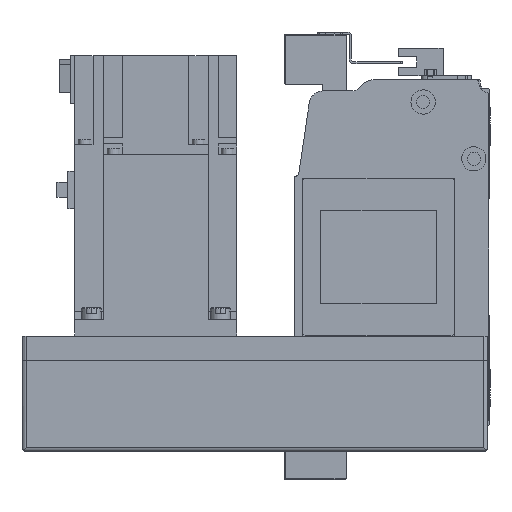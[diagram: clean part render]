
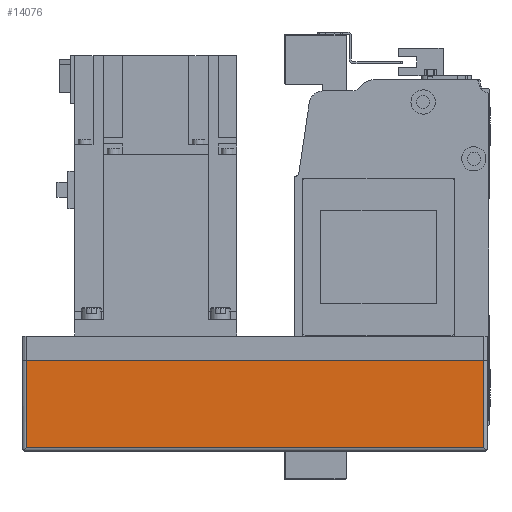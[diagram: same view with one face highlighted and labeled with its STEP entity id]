
A CAD part, left-side view. The second image highlights one B-rep face of the part: STEP entity #14076.
In plain terms, the highlighted planar face has unit normal (-1, 0, 0) as drawn and (0, -1, 0) by its records, which use the part's own axes.
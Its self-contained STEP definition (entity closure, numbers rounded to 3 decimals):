
#2421=ORIENTED_EDGE('',*,*,#5770,.F.);
#2422=ORIENTED_EDGE('',*,*,#5773,.T.);
#2423=ORIENTED_EDGE('',*,*,#5774,.T.);
#2424=ORIENTED_EDGE('',*,*,#5775,.F.);
#5770=EDGE_CURVE('',#7575,#7576,#9053,.T.);
#5773=EDGE_CURVE('',#7575,#7578,#9055,.T.);
#5774=EDGE_CURVE('',#7578,#7579,#9056,.T.);
#5775=EDGE_CURVE('',#7576,#7579,#9057,.T.);
#7575=VERTEX_POINT('',#22081);
#7576=VERTEX_POINT('',#22083);
#7578=VERTEX_POINT('',#22089);
#7579=VERTEX_POINT('',#22091);
#9053=LINE('',#22082,#10366);
#9055=LINE('',#22088,#10368);
#9056=LINE('',#22090,#10369);
#9057=LINE('',#22092,#10370);
#10366=VECTOR('',#17620,1000.);
#10368=VECTOR('',#17626,1000.);
#10369=VECTOR('',#17627,1000.);
#10370=VECTOR('',#17628,1000.);
#11490=EDGE_LOOP('',(#2421,#2422,#2423,#2424));
#12565=FACE_BOUND('',#11490,.T.);
#13490=PLANE('',#15108);
#14076=ADVANCED_FACE('',(#12565),#13490,.T.);
#15108=AXIS2_PLACEMENT_3D('',#22087,#17624,#17625);
#17620=DIRECTION('',(0.,0.,1.));
#17624=DIRECTION('',(0.,-1.,0.));
#17625=DIRECTION('',(0.,0.,-1.));
#17626=DIRECTION('',(1.,0.,0.));
#17627=DIRECTION('',(0.,0.,1.));
#17628=DIRECTION('',(1.,0.,0.));
#22081=CARTESIAN_POINT('',(-228.,-54.,-55.));
#22082=CARTESIAN_POINT('',(-228.,-54.,-57.));
#22083=CARTESIAN_POINT('',(-228.,-54.,-12.));
#22087=CARTESIAN_POINT('',(-228.,-54.,-57.));
#22088=CARTESIAN_POINT('',(-230.,-54.,-55.));
#22089=CARTESIAN_POINT('',(-2.,-54.,-55.));
#22090=CARTESIAN_POINT('',(-2.,-54.,-57.));
#22091=CARTESIAN_POINT('',(-2.,-54.,-12.));
#22092=CARTESIAN_POINT('',(-228.,-54.,-12.));
